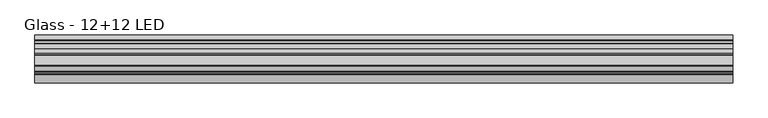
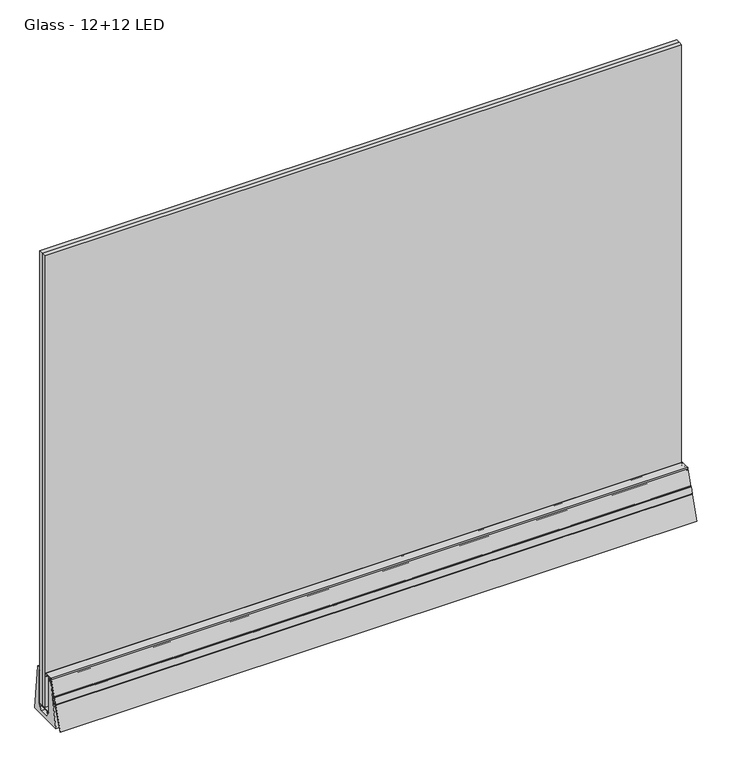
"""IFC4 building model written with IfcOpenShell, lengths in millimetres: proxy geometry, Construction_Slope-Glazing_Faraone_Linea-3-Maxi : Glass - 12+12 LED."""

import ifcopenshell
import ifcopenshell.guid

model = None  # the IFC model being written
_history = None  # IfcOwnerHistory: only IFC2X3 demands one
_inside = {}  # id of a spatial element -> (the spatial element, [elements in it])
_under = {}  # id of a project, library or spatial element -> (it, [spatial elements below it])
_declared = {}  # id of a project -> (the project, [libraries it declares])
_typed = {}  # id of a type object -> (the type object, [elements of that type])
_made_of = {}  # id of a material, layer set ... -> (it, [elements and type objects made of it])


def new_model(schema):
    """Start an empty IFC model of exactly this schema.

    Asked for "IFC4X3", IfcOpenShell would pick the latest addendum, in which some entities
    have other attributes; the version numbers below select the first issue.
    IFC2X3 requires an IfcOwnerHistory on every rooted entity: one is made here for all.
    """
    global model, _history
    if schema == "IFC4X3":
        model = ifcopenshell.file(schema_version=(4, 3, 0, 0))
    else:
        model = ifcopenshell.file(schema=schema)
    _inside.clear()
    _under.clear()
    _declared.clear()
    _typed.clear()
    _made_of.clear()
    _history = None
    if model.schema == "IFC2X3":
        org = make("IfcOrganization", Name="unknown")
        user = make(
            "IfcPersonAndOrganization",
            ThePerson=make("IfcPerson", FamilyName="unknown"),
            TheOrganization=org,
        )
        app = make(
            "IfcApplication",
            ApplicationDeveloper=org,
            Version="unknown",
            ApplicationFullName="unknown",
            ApplicationIdentifier="unknown",
        )
        _history = make(
            "IfcOwnerHistory",
            OwningUser=user,
            OwningApplication=app,
            ChangeAction="ADDED",
            CreationDate=0,
        )
    return model


def make(cls, **values):
    """One entity of the class cls with the attributes given. An attribute that is None is left unset."""
    return model.create_entity(
        cls, **{name: value for name, value in values.items() if value is not None}
    )


def rooted(cls, **values):
    """An entity with a GlobalId (a new one), such as an element, a storey or a relation."""
    return make(cls, GlobalId=ifcopenshell.guid.new(), OwnerHistory=_history, **values)


def si_unit(unit_type, name, prefix=None):
    """IfcSIUnit, for example si_unit("LENGTHUNIT", "METRE", prefix="MILLI")."""
    return make("IfcSIUnit", UnitType=unit_type, Prefix=prefix, Name=name)


def assignment(units):
    """IfcUnitAssignment: the units of a project."""
    return None if units is None else make("IfcUnitAssignment", Units=units)


def point(xyz):
    """IfcCartesianPoint."""
    return None if xyz is None else make("IfcCartesianPoint", Coordinates=xyz)


def direction(xyz):
    """IfcDirection."""
    return None if xyz is None else make("IfcDirection", DirectionRatios=xyz)


def frame(location, z_axis=None, x_axis=None):
    """IfcAxis2Placement3D, a coordinate frame: its origin and axes. An axis left out is left unset."""
    return make(
        "IfcAxis2Placement3D",
        Location=point(location),
        Axis=direction(z_axis),
        RefDirection=direction(x_axis),
    )


def frame_2d(location, x_axis=None):
    """IfcAxis2Placement2D, a coordinate frame in the plane: its origin and x axis."""
    return make(
        "IfcAxis2Placement2D", Location=point(location), RefDirection=direction(x_axis)
    )


def origin():
    """The frame at (0, 0, 0) with its axes left unset."""
    return frame((0.0, 0.0, 0.0))


def place(relative_to, where):
    """IfcLocalPlacement: puts the frame where relative to a parent placement (None: the world)."""
    return make(
        "IfcLocalPlacement", PlacementRelTo=relative_to, RelativePlacement=where
    )


def context(
    kind, dimensions, precision=None, world=None, true_north=None, identifier=None
):
    """IfcGeometricRepresentationContext, for example the 3D "Model" context."""
    return make(
        "IfcGeometricRepresentationContext",
        ContextIdentifier=identifier,
        ContextType=kind,
        CoordinateSpaceDimension=dimensions,
        Precision=precision,
        WorldCoordinateSystem=world,
        TrueNorth=true_north,
    )


def project(units=None, contexts=None):
    """IfcProject with its units and contexts."""
    return rooted(
        "IfcProject",
        Name="project",
        RepresentationContexts=contexts,
        UnitsInContext=assignment(units),
    )


def spatial(cls, under=None, at=None, **own):
    """A site, building, storey or space (cls), placed at a placement, below another one or the project."""
    s = rooted(cls, ObjectPlacement=at, **own)
    if under is not None:
        _under.setdefault(under.id(), (under, []))[1].append(s)
    return s


def polyline(points):
    """IfcPolyline through the points."""
    return make("IfcPolyline", Points=[point(p) for p in points])


def circle_curve(where, radius):
    """IfcCircle in the frame where."""
    return make("IfcCircle", Position=where, Radius=radius)


def trimmed(basis, trim1, trim2, sense, master):
    """IfcTrimmedCurve: the piece of a basis curve between two trims."""
    return make(
        "IfcTrimmedCurve",
        BasisCurve=basis,
        Trim1=trim1,
        Trim2=trim2,
        SenseAgreement=sense,
        MasterRepresentation=master,
    )


def segment(curve, same_sense, transition):
    """IfcCompositeCurveSegment."""
    return make(
        "IfcCompositeCurveSegment",
        Transition=transition,
        SameSense=same_sense,
        ParentCurve=curve,
    )


def composite_curve(segments, self_intersect=None):
    """IfcCompositeCurve: segments joined end to end."""
    return make("IfcCompositeCurve", Segments=segments, SelfIntersect=self_intersect)


def outline(outer, holes=None, kind="AREA"):
    """IfcArbitraryClosedProfileDef: a profile drawn as a closed curve; with holes, ...WithVoids."""
    if holes is None:
        return make("IfcArbitraryClosedProfileDef", ProfileType=kind, OuterCurve=outer)
    return make(
        "IfcArbitraryProfileDefWithVoids",
        ProfileType=kind,
        OuterCurve=outer,
        InnerCurves=holes,
    )


def extrude(swept, where, along, depth):
    """IfcExtrudedAreaSolid: the profile swept, set in the frame where, extruded along a direction by depth."""
    return make(
        "IfcExtrudedAreaSolid",
        SweptArea=swept,
        Position=where,
        ExtrudedDirection=direction(along),
        Depth=depth,
    )


def shape(context_of_items, identifier, shape_type, items):
    """IfcShapeRepresentation: the items that make up one representation, for example the "Body"."""
    return make(
        "IfcShapeRepresentation",
        ContextOfItems=context_of_items,
        RepresentationIdentifier=identifier,
        RepresentationType=shape_type,
        Items=items,
    )


def source(mapping_origin, context_of_items, identifier, shape_type, items):
    """IfcRepresentationMap: a shape defined once, which mapped items show again and again."""
    return make(
        "IfcRepresentationMap",
        MappingOrigin=mapping_origin,
        MappedRepresentation=shape(context_of_items, identifier, shape_type, items),
    )


def transform(
    local_origin,
    x_axis=None,
    y_axis=None,
    z_axis=None,
    scale=None,
    scale2=None,
    scale3=None,
    uniform=True,
):
    """IfcCartesianTransformationOperator3D, or its non-uniform kind. x_axis, y_axis, z_axis: its Axis1, 2, 3."""
    if uniform:
        return make(
            "IfcCartesianTransformationOperator3D",
            Axis1=direction(x_axis),
            Axis2=direction(y_axis),
            LocalOrigin=point(local_origin),
            Scale=scale,
            Axis3=direction(z_axis),
        )
    return make(
        "IfcCartesianTransformationOperator3DnonUniform",
        Axis1=direction(x_axis),
        Axis2=direction(y_axis),
        LocalOrigin=point(local_origin),
        Scale=scale,
        Axis3=direction(z_axis),
        Scale2=scale2,
        Scale3=scale3,
    )


def mapped(mapping_source, mapping_target):
    """IfcMappedItem: shows the shape of a source again, moved by a transform."""
    return make(
        "IfcMappedItem", MappingSource=mapping_source, MappingTarget=mapping_target
    )


def made_of(thing, what):
    """Note that an element or type object is made of a material, layer set ...; save() writes the relation."""
    if what is not None:
        _made_of.setdefault(what.id(), (what, []))[1].append(thing)
    return thing


def element(
    cls,
    number,
    at=None,
    inside=None,
    cuts=None,
    type_object=None,
    material=None,
    context=None,
    identifier="Body",
    shape_type=None,
    held_by="IfcProductDefinitionShape",
    body=None,
    shapes=None,
    **own,
):
    """One element of the class cls, such as IfcWall. Its Tag is "e" and its number.

    at: its placement. inside: the storey or other place that contains it. cuts: it is an
    opening in that element (IfcRelVoidsElement). A single representation is given by context,
    identifier, shape_type and body (its items); several are given by shapes. held_by: the class
    of the entity that holds the representations. save() writes the other relations.
    """
    e = rooted(cls, Tag="e%d" % number, ObjectPlacement=at, **own)
    if body is not None:
        shapes = [shape(context, identifier, shape_type, body)]
    if shapes is not None:
        e.Representation = make(held_by, Representations=shapes)
    if inside is not None:
        _inside.setdefault(inside.id(), (inside, []))[1].append(e)
    if cuts is not None:
        rooted(
            "IfcRelVoidsElement", RelatingBuildingElement=cuts, RelatedOpeningElement=e
        )
    if type_object is not None:
        _typed.setdefault(type_object.id(), (type_object, []))[1].append(e)
    return made_of(e, material)


def aggregate(whole, parts):
    """IfcRelAggregates: a whole, such as a stair, and the parts it consists of."""
    return rooted("IfcRelAggregates", RelatingObject=whole, RelatedObjects=parts)


def save(model, path):
    """Write the relations noted so far, then the file.

    IfcRelAggregates (storeys below a building ...), IfcRelContainedInSpatialStructure (elements
    in a storey), IfcRelDefinesByType, IfcRelAssociatesMaterial and IfcRelDeclares: one each for
    every whole, place, type object, material and project.
    """
    for whole, parts in _under.values():
        aggregate(whole, parts)
    for where, things in _inside.values():
        rooted(
            "IfcRelContainedInSpatialStructure",
            RelatedElements=things,
            RelatingStructure=where,
        )
    for kind, things in _typed.values():
        rooted("IfcRelDefinesByType", RelatedObjects=things, RelatingType=kind)
    for what, things in _made_of.values():
        rooted("IfcRelAssociatesMaterial", RelatedObjects=things, RelatingMaterial=what)
    for by, libraries in _declared.values():
        rooted("IfcRelDeclares", RelatingContext=by, RelatedDefinitions=libraries)
    model.write(path)


def glass_12_12_led_b576f13a(model_context):
    return source(origin(), model_context, "Body", "SweptSolid", [
        extrude(outline(polyline([(-50.129515, 80.0043708), (-47.8245082, 93.0767141), (-41.6751268, 91.8813954), (-44.115606, 78.9439564), (-50.129515, 80.0043708)])), frame((-1000.0, 0.0, 0.0), z_axis=(1.0, 0.0, 0.0), x_axis=(0.0, 1.0, 0.0)), (0.0, 0.0, 1.0), 2000.0),
        extrude(outline(composite_curve([segment(polyline([(-55.5157622, 78.4484523), (-48.9181738, 97.9110521)]), True, "CONTINUOUS"), segment(trimmed(circle_curve(frame_2d((-48.2435686, 97.6823691)), 0.7123118), [point((-48.9181738, 97.9110521))], [point((-48.0148855, 98.3569742))], False, "CARTESIAN"), True, "CONTINUOUS"), segment(polyline([(-48.0148855, 98.3569742), (-47.2688954, 98.1040925), (-48.0113388, 95.9139166), (-42.9033611, 94.1823733), (-42.328843, 93.4993051)]), True, "CONTINUOUS"), segment(trimmed(circle_curve(frame_2d((-42.6043998, 93.2675385)), 0.3600658), [point((-42.328843, 93.4993051))], [point((-42.7199966, 92.926533))], False, "CARTESIAN"), True, "CONTINUOUS"), segment(polyline([(-42.7199966, 92.926533), (-48.3742751, 94.8432658), (-53.2237164, 80.5376243), (-47.5694379, 78.6208915)]), True, "CONTINUOUS"), segment(trimmed(circle_curve(frame_2d((-47.6850347, 78.279886)), 0.3600658), [point((-47.5694379, 78.6208915))], [point((-47.6072173, 77.9283298))], False, "CARTESIAN"), True, "CONTINUOUS"), segment(polyline([(-47.6072173, 77.9283298), (-48.4786777, 77.735431), (-53.5866555, 79.4669744), (-54.3203301, 77.3026662), (-55.076704, 77.5590679)]), True, "CONTINUOUS"), segment(trimmed(circle_curve(frame_2d((-54.8515409, 78.2232892)), 0.7013476), [point((-55.076704, 77.5590679))], [point((-55.5157622, 78.4484523))], False, "CARTESIAN"), True, "CONTINUOUS")], self_intersect=False)), frame((-1000.0, 0.0, 0.0), z_axis=(1.0, 0.0, 0.0), x_axis=(0.0, 1.0, 0.0)), (0.0, 0.0, 1.0), 2000.0),
        extrude(outline(composite_curve([segment(trimmed(circle_curve(frame_2d((-0.5622607, 149.6202564)), 0.5), [point((-0.5622607, 150.1202564))], [point((-0.0622607, 149.6202564))], False, "CARTESIAN"), True, "CONTINUOUS"), segment(polyline([(-0.0622607, 149.6202564), (-0.0622607, 147.5116834), (-0.8559184, 147.5116834), (-0.8559184, 148.7592807), (-1.7540112, 148.7592807)]), True, "CONTINUOUS"), segment(trimmed(circle_curve(frame_2d((-1.7540112, 148.251018)), 0.5082627), [point((-1.7540112, 148.7592807))], [point((-2.2622739, 148.251018))], True, "CARTESIAN"), True, "CONTINUOUS"), segment(polyline([(-2.2622739, 148.251018), (-2.2622739, 143.7675435)]), True, "CONTINUOUS"), segment(trimmed(circle_curve(frame_2d((-1.7540112, 143.7675435)), 0.5082627), [point((-2.2622739, 143.7675435))], [point((-1.7540112, 143.2592807))], True, "CARTESIAN"), True, "CONTINUOUS"), segment(polyline([(-1.7540112, 143.2592807), (-0.8559184, 143.2592807), (-0.8559184, 144.5068781), (-0.0622607, 144.5068781), (-0.0622607, 142.5592807)]), True, "CONTINUOUS"), segment(trimmed(circle_curve(frame_2d((-0.5622607, 142.5592807)), 0.5), [point((-0.0622607, 142.5592807))], [point((-0.5622607, 142.0592807))], False, "CARTESIAN"), True, "CONTINUOUS"), segment(polyline([(-0.5622607, 142.0592807), (-2.9622736, 142.0592807)]), True, "CONTINUOUS"), segment(trimmed(circle_curve(frame_2d((-2.9622736, 142.559281)), 0.5000003), [point((-2.9622736, 142.0592807))], [point((-3.4622739, 142.559281))], False, "CARTESIAN"), True, "CONTINUOUS"), segment(polyline([(-3.4622739, 142.559281), (-3.4622739, 148.1202567)]), True, "CONTINUOUS"), segment(trimmed(circle_curve(frame_2d((-3.9622739, 148.1202567)), 0.5), [point((-3.4622739, 148.1202567))], [point((-3.9622739, 148.6202567))], True, "CARTESIAN"), True, "CONTINUOUS"), segment(polyline([(-3.9622739, 148.6202567), (-18.4381651, 148.6202569), (-18.4381651, 134.8497503), (-20.5252665, 134.8497503), (-20.5252665, 139.9087036), (-19.6381651, 139.9087036), (-19.6381651, 147.8202569)]), True, "CONTINUOUS"), segment(trimmed(circle_curve(frame_2d((-19.6381651, 148.2202569)), 0.4), [point((-19.6381651, 147.8202569))], [point((-19.6381651, 148.6202569))], True, "CARTESIAN"), True, "CONTINUOUS"), segment(polyline([(-19.6381651, 148.6202569), (-28.9632186, 148.6202569)]), True, "CONTINUOUS"), segment(trimmed(circle_curve(frame_2d((-28.9632186, 147.1202566)), 1.5000003), [point((-28.9632186, 148.6202569))], [point((-30.4632189, 147.1202566))], True, "CARTESIAN"), True, "CONTINUOUS"), segment(polyline([(-30.4632189, 147.1202566), (-30.4632189, 139.9087036), (-29.5827199, 139.9087036), (-29.5827199, 134.8497503), (-31.6632189, 134.8505456), (-31.6632189, 141.4097348)]), True, "CONTINUOUS"), segment(trimmed(circle_curve(frame_2d((-31.9593497, 141.4097348)), 0.2961308), [point((-31.6632189, 141.4097348))], [point((-32.2398046, 141.5048056))], True, "CARTESIAN"), True, "CONTINUOUS"), segment(polyline([(-32.2398046, 141.5048056), (-46.3413122, 99.90597), (-45.3926644, 99.5843897)]), True, "CONTINUOUS"), segment(trimmed(circle_curve(frame_2d((-45.5526494, 99.1124409)), 0.4983281), [point((-45.3926644, 99.5843897))], [point((-45.0807005, 98.9524559))], False, "CARTESIAN"), True, "CONTINUOUS"), segment(polyline([(-45.0807005, 98.9524559), (-45.4664894, 97.8143954), (-39.7713257, 95.883803)]), True, "CONTINUOUS"), segment(trimmed(circle_curve(frame_2d((-39.9945463, 95.2253117)), 0.6952973), [point((-39.7713257, 95.883803))], [point((-39.3112991, 95.096426))], False, "CARTESIAN"), True, "CONTINUOUS"), segment(polyline([(-39.3112991, 95.096426), (-43.284602, 74.0332005)]), True, "CONTINUOUS"), segment(trimmed(circle_curve(frame_2d((-43.9554102, 74.1597397)), 0.6826389), [point((-43.284602, 74.0332005))], [point((-44.174567, 73.5132367))], False, "CARTESIAN"), True, "CONTINUOUS"), segment(polyline([(-44.174567, 73.5132367), (-52.7220729, 76.4107389), (-53.1078618, 75.2726784)]), True, "CONTINUOUS"), segment(trimmed(circle_curve(frame_2d((-53.5798106, 75.4326635)), 0.4983281), [point((-53.1078618, 75.2726784))], [point((-53.7397956, 74.9607146))], False, "CARTESIAN"), True, "CONTINUOUS"), segment(polyline([(-53.7397956, 74.9607146), (-54.6884434, 75.2822949), (-79.3588416, 2.5056904), (-81.0635576, 3.0835687), (-56.092277, 76.7477633)]), True, "CONTINUOUS"), segment(trimmed(circle_curve(frame_2d((-55.5592707, 76.5670805)), 0.5627984), [point((-56.092277, 76.7477633))], [point((-55.3785879, 77.1000869))], False, "CARTESIAN"), True, "CONTINUOUS"), segment(polyline([(-55.3785879, 77.1000869), (-54.4909976, 76.7992044), (-53.8489105, 78.6933333), (-51.4812494, 77.8907245), (-50.0654797, 78.2733379), (-49.3248655, 78.0222785), (-49.5871205, 77.2486374), (-45.2859318, 75.7905859)]), True, "CONTINUOUS"), segment(trimmed(circle_curve(frame_2d((-45.1266639, 76.2604192)), 0.4960943), [point((-45.2859318, 75.7905859))], [point((-44.6391673, 76.1684593))], True, "CARTESIAN"), True, "CONTINUOUS"), segment(polyline([(-44.6391673, 76.1684593), (-41.276617, 93.993971)]), True, "CONTINUOUS"), segment(trimmed(circle_curve(frame_2d((-41.8171023, 94.0959265)), 0.5500176), [point((-41.276617, 93.993971))], [point((-41.6405227, 94.6168286))], True, "CARTESIAN"), True, "CONTINUOUS"), segment(polyline([(-41.6405227, 94.6168286), (-43.4872938, 95.2428619), (-43.7495488, 94.4692208), (-44.490163, 94.7202802), (-45.3814226, 95.8849489), (-47.7490837, 96.6875577), (-47.1069967, 98.5816866), (-47.994587, 98.8825691)]), True, "CONTINUOUS"), segment(trimmed(circle_curve(frame_2d((-47.8139042, 99.4155755)), 0.5627984), [point((-47.994587, 98.8825691))], [point((-48.3469106, 99.5962582))], False, "CARTESIAN"), True, "CONTINUOUS"), segment(polyline([(-48.3469106, 99.5962582), (-31.937351, 148.0037474)]), True, "CONTINUOUS"), segment(trimmed(circle_curve(frame_2d((-28.9850698, 147.0029594)), 3.117297), [point((-31.937351, 148.0037474))], [point((-28.9850698, 150.1202564))], False, "CARTESIAN"), True, "CONTINUOUS"), segment(polyline([(-28.9850698, 150.1202564), (-0.5622607, 150.1202564)]), True, "CONTINUOUS")], self_intersect=False)), frame((-1000.0, 0.0, 0.0), z_axis=(1.0, 0.0, 0.0), x_axis=(0.0, 1.0, 0.0)), (0.0, 0.0, 1.0), 2000.0),
        extrude(outline(polyline([(1000.0, 29.9536793), (1000.0, 18.0036793), (-1000.0, 18.0036793), (-1000.0, 29.9536793), (1000.0, 29.9536793)])), frame((0.0, 0.0, 32.9998941), z_axis=(0.0, 0.0, 1.0), x_axis=(1.0, 0.0, 0.0)), (0.0, 0.0, 1.0), 1500.0),
        extrude(outline(polyline([(1000.0, 16.4036793), (1000.0, 4.4536793), (-1000.0, 4.4536793), (-1000.0, 16.4036793), (1000.0, 16.4036793)])), frame((0.0, 0.0, 32.9998941), z_axis=(0.0, 0.0, 1.0), x_axis=(1.0, 0.0, 0.0)), (0.0, 0.0, 1.0), 1500.0),
        extrude(outline(polyline([(27.9495501, 27.4998941), (28.9495501, 27.4998941), (27.9495501, 23.9998941), (25.4495501, 23.9998941), (25.4495501, 29.9998941), (-10.950381, 29.9998941), (-10.950381, 23.9998941), (-13.450381, 23.9998941), (-14.4501535, 27.4998941), (-13.450381, 27.4998941), (-13.450381, 30.0001664), (-16.4959153, 30.0001664), (-16.4959153, 32.9998941), (30.7553177, 32.9998941), (30.7553177, 140.9999202), (33.4499946, 140.9999202), (33.4499946, 29.9998941), (27.9495501, 29.9998941), (27.9495501, 27.4998941)])), frame((-1000.0, 0.0, 0.0), z_axis=(1.0, 0.0, 0.0), x_axis=(0.0, 1.0, 0.0)), (0.0, 0.0, 1.0), 2000.0),
        extrude(outline(composite_curve([segment(polyline([(-57.25, 0.0), (-31.812192, 134.8497503), (-29.5827199, 134.8497503), (-29.5827199, 141.7168813), (-20.5252665, 141.7168813), (-20.5252665, 134.8497503), (-18.9499762, 134.8497503), (-18.9499762, 30.0001664), (-13.9493491, 30.0001664), (-13.9493491, 28.0001664), (-19.2314658, 28.0001664), (-7.6590914, 11.0005351), (22.522986, 11.0002742), (33.5998649, 28.0000261), (28.4500912, 28.0000261), (28.4500912, 29.9998941), (33.4499946, 29.9998941), (33.4499271, 149.9042043), (40.4619354, 149.9042043)]), True, "CONTINUOUS"), segment(trimmed(circle_curve(frame_2d((40.4619354, 148.7574992)), 1.1467051), [point((40.4619354, 149.9042043))], [point((41.6023587, 148.8773626))], False, "CARTESIAN"), True, "CONTINUOUS"), segment(polyline([(41.6023587, 148.8773626), (57.25, 0.0), (-57.25, 0.0)]), True, "CONTINUOUS")], self_intersect=False)), frame((-1000.0, 0.0, 0.0), z_axis=(1.0, 0.0, 0.0), x_axis=(0.0, 1.0, 0.0)), (0.0, 0.0, 1.0), 2000.0),
    ])


if __name__ == "__main__":
    model = new_model("IFC4")
    model_context = context("Model", 3, world=origin())
    ifc_project = project(units=[si_unit("LENGTHUNIT", "METRE", prefix="MILLI")], contexts=[model_context])
    site = spatial("IfcSite", under=ifc_project)
    building = spatial("IfcBuilding", under=site)
    placement = place(None, origin())
    glass_12_12_led_shape = glass_12_12_led_b576f13a(model_context)
    element("IfcBuildingElementProxy", 1, Name="Construction_Slope-Glazing_Faraone_Linea-3-Maxi : Glass - 12+12 LED", ObjectType="Construction_Slope-Glazing_Faraone_Linea-3-Maxi : Glass - 12+12 LED", at=placement, inside=building, context=model_context, shape_type="MappedRepresentation", body=[
        mapped(glass_12_12_led_shape, transform((0.0, 0.0, 0.0), x_axis=(1.0, 0.0, 0.0), y_axis=(0.0, 1.0, 0.0), z_axis=(0.0, 0.0, 1.0))),
    ])
    save(model, "model.ifc")
